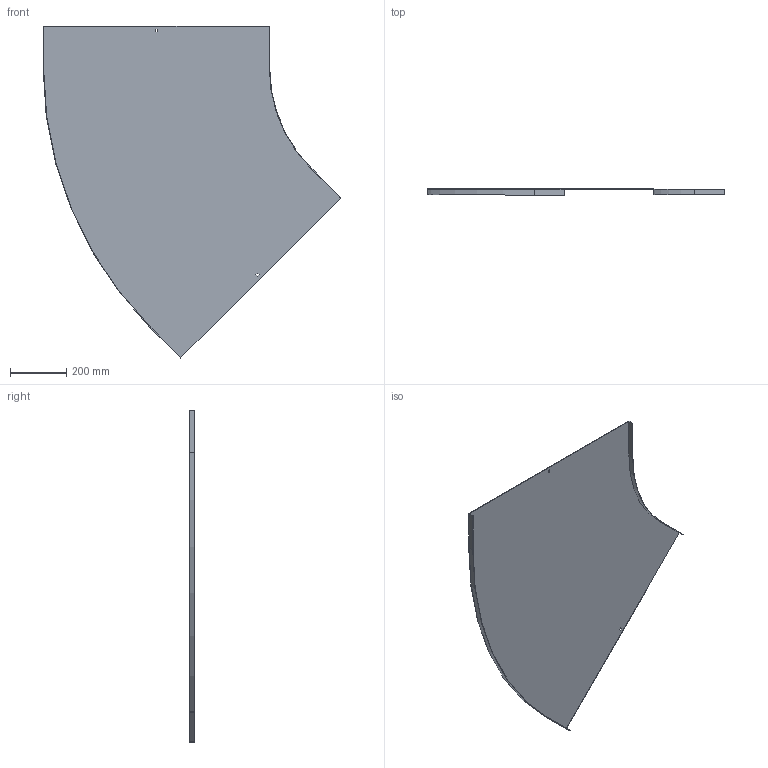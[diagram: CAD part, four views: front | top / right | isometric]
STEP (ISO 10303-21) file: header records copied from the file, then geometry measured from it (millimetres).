
FILE_DESCRIPTION (( 'STEP AP214' ), '1' );
FILE_NAME ('11N5R800.step', '2025-02-21T10:50:16', ( '' ), ( '' ), 'SwSTEP 2.0', 'SolidWorks 2023', '' );
FILE_SCHEMA (( 'AUTOMOTIVE_DESIGN' ));
Length unit declared in the file: millimetre
Products named in the file (1): 11N5R800
Bounding box: 1055.07 x 20 x 1176.37 mm (x, y, z)
Volume: 1268466 mm3; surface area: 1696921.6 mm2
Topology: 1 solids, 1 shells, 26 faces, 72 edges, 48 vertices
Faces by surface type: plane 22, cylinder 4
Entity records: 855 total; most frequent: CARTESIAN_POINT 147, ORIENTED_EDGE 144, DIRECTION 134, EDGE_CURVE 72, LINE 64, VECTOR 64, VERTEX_POINT 48, AXIS2_PLACEMENT_3D 35
